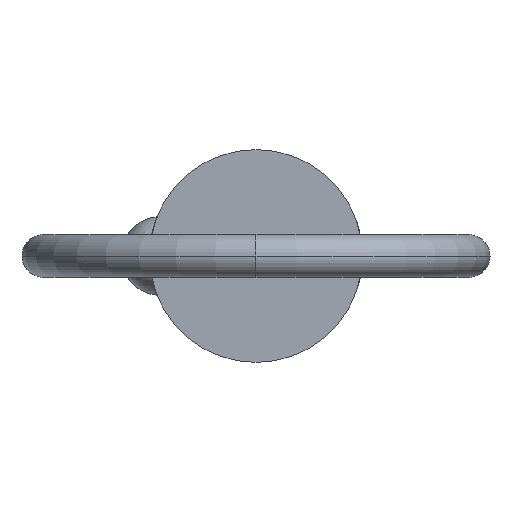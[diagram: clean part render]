
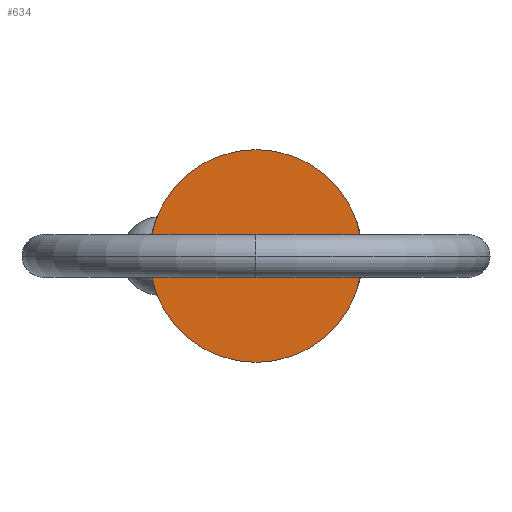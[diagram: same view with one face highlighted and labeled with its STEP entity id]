
A CAD part, left-side view. The second image highlights one B-rep face of the part: STEP entity #634.
In plain terms, the highlighted planar face has unit normal (-1, 0, 0).
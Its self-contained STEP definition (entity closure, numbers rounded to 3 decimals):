
#118 = AXIS2_PLACEMENT_3D ( 'NONE', #737, #602, #245 ) ;
#156 = CARTESIAN_POINT ( 'NONE',  ( 0., 0., 7.94 ) ) ;
#194 = AXIS2_PLACEMENT_3D ( 'NONE', #319, #806, #742 ) ;
#221 = DIRECTION ( 'NONE',  ( 1., 0., 0. ) ) ;
#245 = DIRECTION ( 'NONE',  ( 0., 0., -1. ) ) ;
#246 = EDGE_CURVE ( 'NONE', #752, #819, #726, .T. ) ;
#315 = PLANE ( 'NONE',  #194 ) ;
#319 = CARTESIAN_POINT ( 'NONE',  ( 0., 0., 0. ) ) ;
#359 = CARTESIAN_POINT ( 'NONE',  ( 0., 0., 0. ) ) ;
#407 = EDGE_LOOP ( 'NONE', ( #822, #473 ) ) ;
#456 = AXIS2_PLACEMENT_3D ( 'NONE', #359, #221, #781 ) ;
#468 = CARTESIAN_POINT ( 'NONE',  ( 0., 0., -7.94 ) ) ;
#473 = ORIENTED_EDGE ( 'NONE', *, *, #739, .F. ) ;
#602 = DIRECTION ( 'NONE',  ( 1., 0., 0. ) ) ;
#634 = ADVANCED_FACE ( 'NONE', ( #674 ), #315, .T. ) ;
#674 = FACE_OUTER_BOUND ( 'NONE', #407, .T. ) ;
#699 = CIRCLE ( 'NONE', #118, 7.94 ) ;
#726 = CIRCLE ( 'NONE', #456, 7.94 ) ;
#737 = CARTESIAN_POINT ( 'NONE',  ( 0., 0., 0. ) ) ;
#739 = EDGE_CURVE ( 'NONE', #819, #752, #699, .T. ) ;
#742 = DIRECTION ( 'NONE',  ( 0., 0., 1. ) ) ;
#752 = VERTEX_POINT ( 'NONE', #468 ) ;
#781 = DIRECTION ( 'NONE',  ( 0., 0., -1. ) ) ;
#806 = DIRECTION ( 'NONE',  ( -1., 0., 0. ) ) ;
#819 = VERTEX_POINT ( 'NONE', #156 ) ;
#822 = ORIENTED_EDGE ( 'NONE', *, *, #246, .F. ) ;
